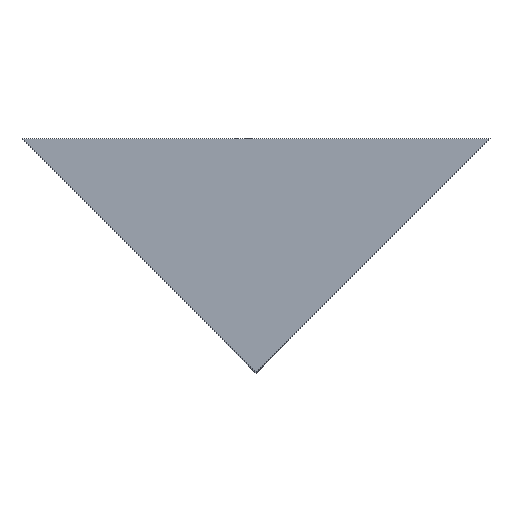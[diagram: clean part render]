
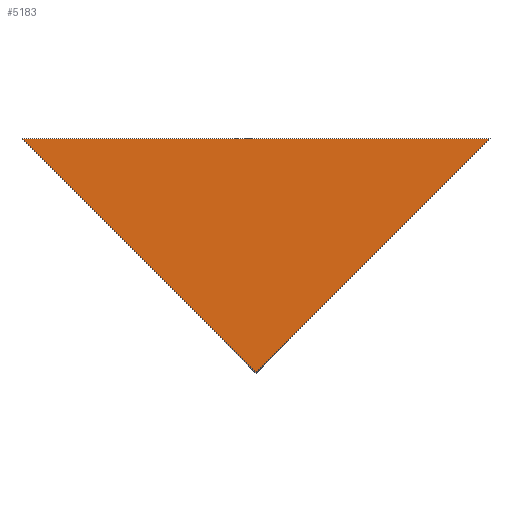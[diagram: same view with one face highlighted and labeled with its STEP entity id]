
A CAD part, top view. The second image highlights one B-rep face of the part: STEP entity #5183.
In plain terms, the highlighted planar face has unit normal (0, 0, 1).
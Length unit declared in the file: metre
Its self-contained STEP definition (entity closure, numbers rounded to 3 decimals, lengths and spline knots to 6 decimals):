
#711=ORIENTED_EDGE('',*,*,#1926,.T.);
#712=ORIENTED_EDGE('',*,*,#1936,.T.);
#713=ORIENTED_EDGE('',*,*,#1937,.F.);
#1926=EDGE_CURVE('',#2586,#2585,#3166,.T.);
#1936=EDGE_CURVE('',#2585,#2591,#3176,.T.);
#1937=EDGE_CURVE('',#2586,#2591,#3177,.T.);
#2585=VERTEX_POINT('',#7770);
#2586=VERTEX_POINT('',#7772);
#2591=VERTEX_POINT('',#7790);
#3166=LINE('',#7771,#3910);
#3176=LINE('',#7791,#3920);
#3177=LINE('',#7793,#3921);
#3910=VECTOR('',#6245,1.);
#3920=VECTOR('',#6263,1.);
#3921=VECTOR('',#6266,1.);
#4353=EDGE_LOOP('',(#711,#712,#713));
#4643=FACE_BOUND('',#4353,.T.);
#4913=PLANE('',#5466);
#5183=ADVANCED_FACE('',(#4643),#4913,.T.);
#5466=AXIS2_PLACEMENT_3D('',#7792,#6264,#6265);
#6245=DIRECTION('',(0.707,0.707,0.));
#6263=DIRECTION('',(-1.,0.,0.));
#6264=DIRECTION('',(0.,0.,1.));
#6265=DIRECTION('',(1.,0.,0.));
#6266=DIRECTION('',(-0.707,0.707,0.));
#7770=CARTESIAN_POINT('',(0.05,0.05,0.051));
#7771=CARTESIAN_POINT('',(0.003398,0.003398,0.051));
#7772=CARTESIAN_POINT('',(0.,0.,0.051));
#7790=CARTESIAN_POINT('',(-0.05,0.05,0.051));
#7791=CARTESIAN_POINT('',(0.025,0.05,0.051));
#7792=CARTESIAN_POINT('',(0.,0.,0.051));
#7793=CARTESIAN_POINT('',(-0.003398,0.003398,0.051));
